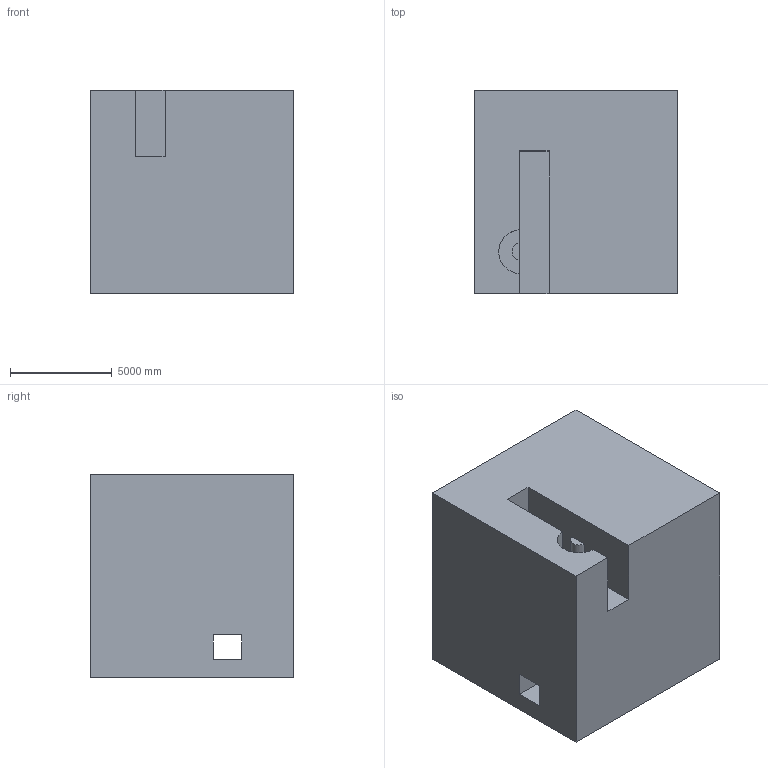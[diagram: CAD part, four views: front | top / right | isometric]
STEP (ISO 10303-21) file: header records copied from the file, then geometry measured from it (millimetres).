
FILE_DESCRIPTION (( 'STEP AP203' ), '1' );
FILE_NAME ('1280.STEP', '2022-08-18T13:32:25', ( 'user' ), ( '' ), 'SwSTEP 2.0', 'SolidWorks 2021', '' );
FILE_SCHEMA (( 'CONFIG_CONTROL_DESIGN' ));
Length unit declared in the file: centimetre
Products named in the file (1): 1280
Bounding box: 10000 x 10000 x 10000 mm (x, y, z)
Volume: 947052348831.2 mm3; surface area: 700433917.1 mm2
Topology: 1 solids, 1 shells, 18 faces, 48 edges, 32 vertices
Faces by surface type: plane 16, cylinder 2
Entity records: 637 total; most frequent: CARTESIAN_POINT 99, ORIENTED_EDGE 96, DIRECTION 90, EDGE_CURVE 48, VECTOR 44, LINE 44, VERTEX_POINT 32, AXIS2_PLACEMENT_3D 23
